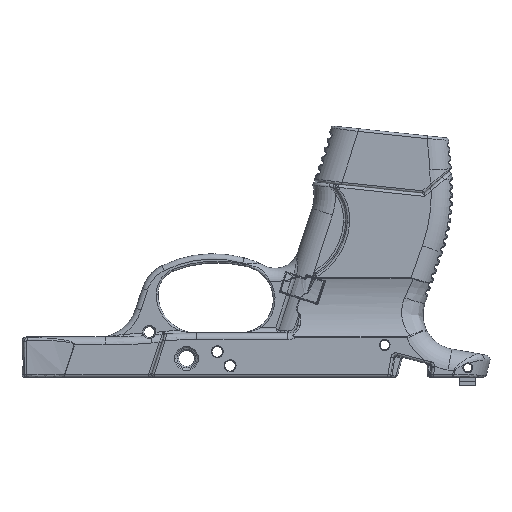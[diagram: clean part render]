
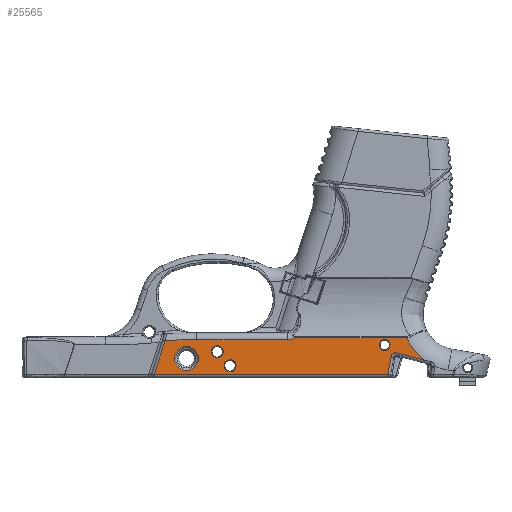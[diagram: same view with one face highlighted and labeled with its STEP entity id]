
A CAD part, front view. The second image highlights one B-rep face of the part: STEP entity #25565.
In plain terms, the highlighted planar face has unit normal (0, -1, 0).
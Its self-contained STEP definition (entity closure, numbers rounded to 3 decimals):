
#36=FACE_BOUND('',#4132,.T.);
#37=FACE_BOUND('',#4133,.T.);
#38=FACE_BOUND('',#4134,.T.);
#39=FACE_BOUND('',#4135,.T.);
#1364=PLANE('',#28081);
#2417=FACE_OUTER_BOUND('',#4131,.T.);
#4131=EDGE_LOOP('',(#20651,#20652,#20653,#20654,#20655,#20656,#20657,#20658,
#20659,#20660));
#4132=EDGE_LOOP('',(#20661));
#4133=EDGE_LOOP('',(#20662));
#4134=EDGE_LOOP('',(#20663));
#4135=EDGE_LOOP('',(#20664));
#5757=CIRCLE('',#27976,2.);
#5819=CIRCLE('',#28079,21.);
#5820=CIRCLE('',#28082,6.5);
#5821=CIRCLE('',#28083,193.385);
#5822=CIRCLE('',#28084,2.);
#5823=CIRCLE('',#28085,2.25);
#5824=CIRCLE('',#28086,4.5);
#5825=CIRCLE('',#28087,2.25);
#7264=LINE('',#55472,#8512);
#7265=LINE('',#55483,#8513);
#7270=LINE('',#55617,#8518);
#7300=LINE('',#55989,#8548);
#7303=LINE('',#56019,#8551);
#7304=LINE('',#56023,#8552);
#8512=VECTOR('',#33354,10.);
#8513=VECTOR('',#33367,10.);
#8518=VECTOR('',#33408,10.);
#8548=VECTOR('',#33590,10.);
#8551=VECTOR('',#33609,10.);
#8552=VECTOR('',#33612,10.);
#11300=VERTEX_POINT('',#55465);
#11303=VERTEX_POINT('',#55470);
#11305=VERTEX_POINT('',#55475);
#11307=VERTEX_POINT('',#55481);
#11317=VERTEX_POINT('',#55614);
#11369=VERTEX_POINT('',#55988);
#11374=VERTEX_POINT('',#56007);
#11376=VERTEX_POINT('',#56018);
#11377=VERTEX_POINT('',#56020);
#11378=VERTEX_POINT('',#56022);
#11379=VERTEX_POINT('',#56025);
#11380=VERTEX_POINT('',#56027);
#11381=VERTEX_POINT('',#56029);
#11382=VERTEX_POINT('',#56031);
#14477=EDGE_CURVE('',#11303,#11300,#7264,.T.);
#14479=EDGE_CURVE('',#11305,#11303,#5757,.T.);
#14482=EDGE_CURVE('',#11307,#11305,#7265,.T.);
#14502=EDGE_CURVE('',#11300,#11317,#7270,.T.);
#14592=EDGE_CURVE('',#11317,#11369,#7300,.T.);
#14599=EDGE_CURVE('',#11374,#11307,#5819,.T.);
#14602=EDGE_CURVE('',#11376,#11374,#7303,.T.);
#14603=EDGE_CURVE('',#11377,#11376,#5820,.T.);
#14604=EDGE_CURVE('',#11378,#11377,#7304,.T.);
#14605=EDGE_CURVE('',#11369,#11378,#5821,.T.);
#14606=EDGE_CURVE('',#11379,#11379,#5822,.T.);
#14607=EDGE_CURVE('',#11380,#11380,#5823,.T.);
#14608=EDGE_CURVE('',#11381,#11381,#5824,.T.);
#14609=EDGE_CURVE('',#11382,#11382,#5825,.T.);
#20651=ORIENTED_EDGE('',*,*,#14502,.F.);
#20652=ORIENTED_EDGE('',*,*,#14477,.F.);
#20653=ORIENTED_EDGE('',*,*,#14479,.F.);
#20654=ORIENTED_EDGE('',*,*,#14482,.F.);
#20655=ORIENTED_EDGE('',*,*,#14599,.F.);
#20656=ORIENTED_EDGE('',*,*,#14602,.F.);
#20657=ORIENTED_EDGE('',*,*,#14603,.F.);
#20658=ORIENTED_EDGE('',*,*,#14604,.F.);
#20659=ORIENTED_EDGE('',*,*,#14605,.F.);
#20660=ORIENTED_EDGE('',*,*,#14592,.F.);
#20661=ORIENTED_EDGE('',*,*,#14606,.F.);
#20662=ORIENTED_EDGE('',*,*,#14607,.F.);
#20663=ORIENTED_EDGE('',*,*,#14608,.F.);
#20664=ORIENTED_EDGE('',*,*,#14609,.F.);
#25565=ADVANCED_FACE('',(#2417,#36,#37,#38,#39),#1364,.F.);
#27976=AXIS2_PLACEMENT_3D('',#55477,#33359,#33360);
#28079=AXIS2_PLACEMENT_3D('',#56012,#33601,#33602);
#28081=AXIS2_PLACEMENT_3D('',#56017,#33607,#33608);
#28082=AXIS2_PLACEMENT_3D('',#56021,#33610,#33611);
#28083=AXIS2_PLACEMENT_3D('',#56024,#33613,#33614);
#28084=AXIS2_PLACEMENT_3D('',#56026,#33615,#33616);
#28085=AXIS2_PLACEMENT_3D('',#56028,#33617,#33618);
#28086=AXIS2_PLACEMENT_3D('',#56030,#33619,#33620);
#28087=AXIS2_PLACEMENT_3D('',#56032,#33621,#33622);
#33354=DIRECTION('',(-0.174,0.,-0.985));
#33359=DIRECTION('center_axis',(0.,-1.,0.));
#33360=DIRECTION('ref_axis',(-0.537,0.,0.843));
#33367=DIRECTION('',(-0.966,0.,0.259));
#33408=DIRECTION('',(-1.,0.,0.));
#33590=DIRECTION('',(0.309,0.,0.951));
#33601=DIRECTION('center_axis',(0.,-1.,0.));
#33602=DIRECTION('ref_axis',(-0.492,0.,-0.871));
#33607=DIRECTION('center_axis',(0.,1.,0.));
#33608=DIRECTION('ref_axis',(1.,0.,0.));
#33609=DIRECTION('',(1.,0.,0.));
#33610=DIRECTION('center_axis',(0.,-1.,0.));
#33611=DIRECTION('ref_axis',(0.588,0.,-0.809));
#33612=DIRECTION('',(1.,0.,0.));
#33613=DIRECTION('center_axis',(0.,1.,0.));
#33614=DIRECTION('ref_axis',(-0.031,0.,1.));
#33615=DIRECTION('center_axis',(0.,-1.,0.));
#33616=DIRECTION('ref_axis',(1.,0.,0.));
#33617=DIRECTION('center_axis',(0.,-1.,0.));
#33618=DIRECTION('ref_axis',(1.,0.,0.));
#33619=DIRECTION('center_axis',(0.,-1.,0.));
#33620=DIRECTION('ref_axis',(1.,0.,0.));
#33621=DIRECTION('center_axis',(0.,-1.,0.));
#33622=DIRECTION('ref_axis',(1.,0.,0.));
#55465=CARTESIAN_POINT('',(60.55,-15.,-39.));
#55470=CARTESIAN_POINT('',(61.682,-15.,-32.58));
#55472=CARTESIAN_POINT('',(63.155,-15.,-24.223));
#55475=CARTESIAN_POINT('',(64.169,-15.,-30.996));
#55477=CARTESIAN_POINT('Origin',(63.651,-15.,-32.927));
#55481=CARTESIAN_POINT('',(74.299,-15.,-33.71));
#55483=CARTESIAN_POINT('',(35.838,-15.,-23.404));
#55614=CARTESIAN_POINT('',(-26.624,-15.,-39.));
#55617=CARTESIAN_POINT('',(52.3,-15.,-39.));
#55988=CARTESIAN_POINT('',(-22.516,-15.,-26.358));
#55989=CARTESIAN_POINT('',(-17.072,-15.,-9.602));
#56007=CARTESIAN_POINT('',(67.471,-15.,-25.272));
#56012=CARTESIAN_POINT('Origin',(86.655,-15.,-16.73));
#56017=CARTESIAN_POINT('Origin',(9.6,-15.,1.309));
#56018=CARTESIAN_POINT('',(26.047,-15.,-25.272));
#56019=CARTESIAN_POINT('',(110.,-15.,-25.272));
#56020=CARTESIAN_POINT('',(23.058,-15.,-26.));
#56021=CARTESIAN_POINT('Origin',(23.058,-15.,-19.5));
#56022=CARTESIAN_POINT('',(-10.75,-15.,-26.));
#56023=CARTESIAN_POINT('',(7.425,-15.,-26.));
#56024=CARTESIAN_POINT('Origin',(-10.75,-15.,-219.385));
#56025=CARTESIAN_POINT('',(57.375,-15.,-28.));
#56026=CARTESIAN_POINT('Origin',(59.375,-15.,-28.));
#56027=CARTESIAN_POINT('',(-5.35,-15.,-30.525));
#56028=CARTESIAN_POINT('Origin',(-3.1,-15.,-30.525));
#56029=CARTESIAN_POINT('',(-19.1,-15.,-33.025));
#56030=CARTESIAN_POINT('Origin',(-14.6,-15.,-33.025));
#56031=CARTESIAN_POINT('',(-0.6,-15.,-35.775));
#56032=CARTESIAN_POINT('Origin',(1.65,-15.,-35.775));
